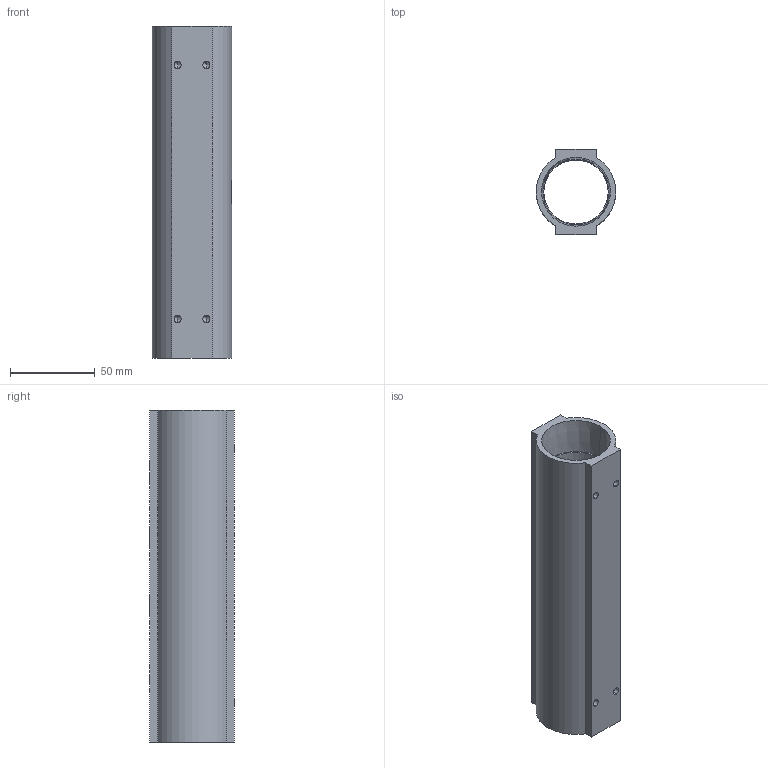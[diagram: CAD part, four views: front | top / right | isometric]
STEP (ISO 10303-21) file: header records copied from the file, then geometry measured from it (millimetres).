
FILE_DESCRIPTION (( 'STEP AP214' ), '1' );
FILE_NAME ('BWM4620R.STEP', '2022-03-15T05:43:32', ( '' ), ( '' ), 'SwSTEP 2.0', 'SolidWorks 2020', '' );
FILE_SCHEMA (( 'AUTOMOTIVE_DESIGN' ));
Length unit declared in the file: millimetre
Products named in the file (1): BWM4620R
Bounding box: 47 x 50 x 196 mm (x, y, z)
Volume: 131041.4 mm3; surface area: 57290 mm2
Topology: 1 solids, 1 shells, 211 faces, 565 edges, 370 vertices
Faces by surface type: plane 106, bspline 44, cylinder 41, cone 20
Entity records: 11402 total; most frequent: CARTESIAN_POINT 4703, ORIENTED_EDGE 1114, DIRECTION 761, EDGE_CURVE 557, VERTEX_POINT 370, VECTOR 285, LINE 285, EDGE_LOOP 243
